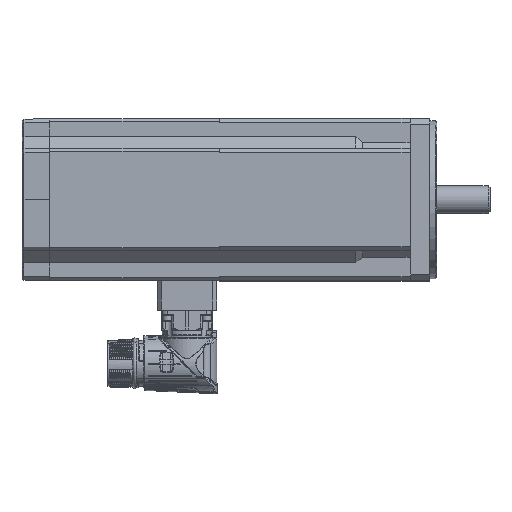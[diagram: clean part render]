
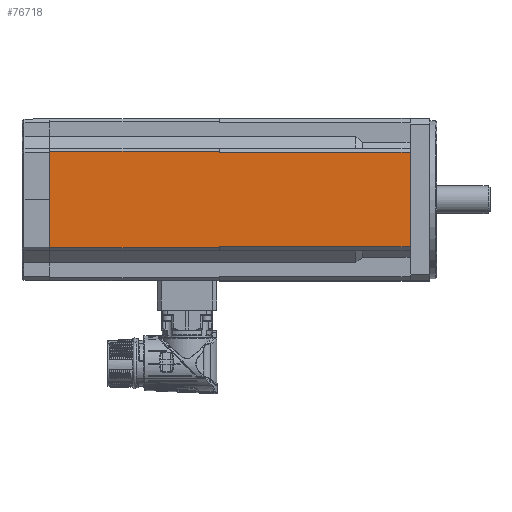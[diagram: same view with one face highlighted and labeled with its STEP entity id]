
A CAD part, top view. The second image highlights one B-rep face of the part: STEP entity #76718.
In plain terms, the highlighted planar face has unit normal (0, 0, 1).
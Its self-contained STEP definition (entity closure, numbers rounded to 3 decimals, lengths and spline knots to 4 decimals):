
#16109=FACE_OUTER_BOUND('',#21048,.T.);
#21048=EDGE_LOOP('',(#65248,#65249,#65250,#65251,#65252,#65253,#65254,#65255,
#65256,#65257));
#24369=LINE('',#258272,#27321);
#24375=LINE('',#258284,#27327);
#24435=LINE('',#260886,#27387);
#24439=LINE('',#260894,#27391);
#24467=LINE('',#261020,#27419);
#24486=LINE('',#261080,#27438);
#24487=LINE('',#261083,#27439);
#24488=LINE('',#261085,#27440);
#24489=LINE('',#261086,#27441);
#24490=LINE('',#261087,#27442);
#27321=VECTOR('',#102493,0.0394);
#27327=VECTOR('',#102501,0.0394);
#27387=VECTOR('',#103005,0.0394);
#27391=VECTOR('',#103011,0.0394);
#27419=VECTOR('',#103141,0.3937);
#27438=VECTOR('',#103204,0.3937);
#27439=VECTOR('',#103207,0.0394);
#27440=VECTOR('',#103208,0.0394);
#27441=VECTOR('',#103209,0.0394);
#27442=VECTOR('',#103210,0.3937);
#33727=VERTEX_POINT('',#258268);
#33729=VERTEX_POINT('',#258271);
#33732=VERTEX_POINT('',#258278);
#33734=VERTEX_POINT('',#258282);
#33910=VERTEX_POINT('',#260885);
#33913=VERTEX_POINT('',#260893);
#33959=VERTEX_POINT('',#261017);
#33960=VERTEX_POINT('',#261019);
#33980=VERTEX_POINT('',#261082);
#33981=VERTEX_POINT('',#261084);
#44156=EDGE_CURVE('',#33727,#33729,#24369,.T.);
#44162=EDGE_CURVE('',#33734,#33732,#24375,.T.);
#44453=EDGE_CURVE('',#33734,#33910,#24435,.T.);
#44457=EDGE_CURVE('',#33729,#33913,#24439,.T.);
#44510=EDGE_CURVE('',#33960,#33959,#24467,.T.);
#44537=EDGE_CURVE('',#33732,#33959,#24486,.T.);
#44538=EDGE_CURVE('',#33910,#33980,#24487,.T.);
#44539=EDGE_CURVE('',#33980,#33981,#24488,.T.);
#44540=EDGE_CURVE('',#33981,#33913,#24489,.T.);
#44541=EDGE_CURVE('',#33960,#33727,#24490,.T.);
#65248=ORIENTED_EDGE('',*,*,#44537,.F.);
#65249=ORIENTED_EDGE('',*,*,#44162,.F.);
#65250=ORIENTED_EDGE('',*,*,#44453,.T.);
#65251=ORIENTED_EDGE('',*,*,#44538,.T.);
#65252=ORIENTED_EDGE('',*,*,#44539,.T.);
#65253=ORIENTED_EDGE('',*,*,#44540,.T.);
#65254=ORIENTED_EDGE('',*,*,#44457,.F.);
#65255=ORIENTED_EDGE('',*,*,#44156,.F.);
#65256=ORIENTED_EDGE('',*,*,#44541,.F.);
#65257=ORIENTED_EDGE('',*,*,#44510,.T.);
#67992=PLANE('',#84754);
#76718=ADVANCED_FACE('',(#16109),#67992,.T.);
#84754=AXIS2_PLACEMENT_3D('',#261081,#103205,#103206);
#102493=DIRECTION('',(0.,-1.,0.));
#102501=DIRECTION('',(0.,-1.,0.));
#103005=DIRECTION('',(-1.,0.,0.));
#103011=DIRECTION('',(-1.,0.,0.));
#103141=DIRECTION('',(0.,1.,0.));
#103204=DIRECTION('',(1.,0.,0.));
#103205=DIRECTION('center_axis',(0.,0.,
1.));
#103206=DIRECTION('ref_axis',(1.,0.,0.));
#103207=DIRECTION('',(0.,-1.,0.));
#103208=DIRECTION('',(0.,-1.,0.));
#103209=DIRECTION('',(0.,-1.,0.));
#103210=DIRECTION('',(-1.,0.,0.));
#258268=CARTESIAN_POINT('',(5.687,3.1651,2.7463));
#258271=CARTESIAN_POINT('',(5.687,3.1454,2.7463));
#258272=CARTESIAN_POINT('',(5.687,5.0745,2.7463));
#258278=CARTESIAN_POINT('',(5.687,5.0548,2.7463));
#258282=CARTESIAN_POINT('',(5.687,5.0745,2.7463));
#258284=CARTESIAN_POINT('',(5.687,5.0745,2.7463));
#260885=CARTESIAN_POINT('',(2.3011,5.0745,2.7463));
#260886=CARTESIAN_POINT('',(5.687,5.0745,2.7463));
#260893=CARTESIAN_POINT('',(2.3011,3.1454,2.7463));
#260894=CARTESIAN_POINT('',(5.687,3.1454,2.7463));
#261017=CARTESIAN_POINT('',(9.4862,5.0548,2.7463));
#261019=CARTESIAN_POINT('',(9.4862,3.1651,2.7463));
#261020=CARTESIAN_POINT('',(9.4862,3.0863,2.7463));
#261080=CARTESIAN_POINT('',(5.6279,5.0548,2.7463));
#261081=CARTESIAN_POINT('Origin',(5.6279,3.0863,2.7463));
#261082=CARTESIAN_POINT('',(2.3011,5.0546,2.7463));
#261083=CARTESIAN_POINT('',(2.3011,3.1454,2.7463));
#261084=CARTESIAN_POINT('',(2.3011,3.1654,2.7463));
#261085=CARTESIAN_POINT('',(2.3011,3.1454,2.7463));
#261086=CARTESIAN_POINT('',(2.3011,3.1454,2.7463));
#261087=CARTESIAN_POINT('',(5.6279,3.1651,2.7463));
